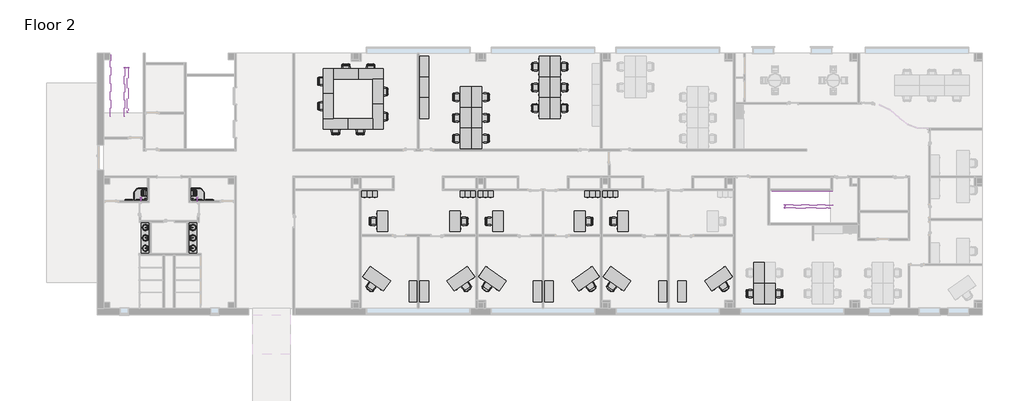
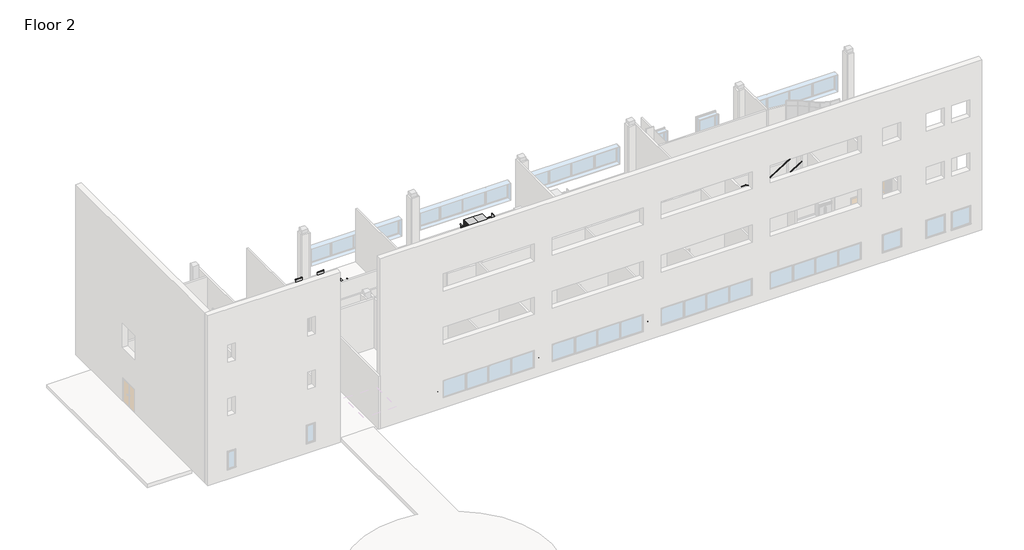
# One storey, part 6 of 7: 93 furniture elements, 16 flow terminals, 4 railings.
"""IFC4 building model written with IfcOpenShell, lengths in millimetres."""

from ifc_helpers import new_model, si_unit, origin, place, context, project, spatial, transform, mapped, element, save
from components import grab_rail_horizontal_grab_bar_horizontal_3488bc9b, grab_rail_horizontal_grab_bar_horizontal_f73a8c0c, shower_head_shower_head_b2a460ee, shower_head_shower_head_3f4786c7, shower_seat_e35f25db, shower_seat_bb0cd458, shower_tray_2_floor_shower_tray_997da0d4, shower_tray_2_floor_shower_tray_7a1f724c, sink_vanity_round_basin_6ecf7a68, furniture_552c1472, furniture_48aa8ab9, chair_executive_chair_executive_8d69e98c, chair_executive_chair_executive_a5be4872, chair_task_arms_chair_task_arms_fa5a08ef, chair_task_arms_chair_task_arms_3c69ee15, furniture_0f0bb7e9, furniture_a9e97cbc, furniture_f1eb905c, furniture_e30ff25b, furniture_33f25304, furniture_65204735, plumbing_fixtures_counter_top_w_sinks_2400x600x850mm_820859b4, furniture_a5b052b6, stair_railing_1_d4a7e100, stair_railing_1_835fd4d1, stair_railing_1_a30edcdb, stair_railing_1_ea28da98

model = new_model("IFC4")

# Units and contexts
model_context = context("Model", 3, world=origin())
ifc_project = project(units=[si_unit("LENGTHUNIT", "METRE", prefix="MILLI")], contexts=[model_context])

# Site, building, storey
site = spatial("IfcSite", under=ifc_project)
building = spatial("IfcBuilding", under=site)
storey = spatial("IfcBuildingStorey", under=building, Name="Floor 2", Elevation=5486.4)

# Flow terminals
placement = place(None, origin())
grab_rail_horizontal_grab_bar_horizontal_shape = grab_rail_horizontal_grab_bar_horizontal_3488bc9b(model_context)
element("IfcFlowTerminal", 1, ObjectType="Grab Rail - Horizontal : Grab Bar Horizontal", at=placement, inside=storey, context=model_context, shape_type="MappedRepresentation", body=[
    mapped(grab_rail_horizontal_grab_bar_horizontal_shape, transform((3129.9735359, 46520.961889, 5486.4), x_axis=(-1.0, 0.0, 0.0), y_axis=(0.0, -1.0, 0.0), z_axis=(0.0, 0.0, 1.0))),
])
element("IfcFlowTerminal", 2, ObjectType="Grab Rail - Horizontal : Grab Bar Horizontal", at=placement, inside=storey, context=model_context, shape_type="MappedRepresentation", body=[
    mapped(grab_rail_horizontal_grab_bar_horizontal_shape, transform((3939.9735359, 46520.961889, 5486.4), x_axis=(-1.0, 0.0, 0.0), y_axis=(0.0, -1.0, 0.0), z_axis=(0.0, 0.0, 1.0))),
])
grab_rail_horizontal_grab_bar_horizontal_2_shape = grab_rail_horizontal_grab_bar_horizontal_f73a8c0c(model_context)
element("IfcFlowTerminal", 3, ObjectType="Grab Rail - Horizontal : Grab Bar Horizontal", at=placement, inside=storey, context=model_context, shape_type="MappedRepresentation", body=[
    mapped(grab_rail_horizontal_grab_bar_horizontal_2_shape, transform((543.5648689, 46520.961889, 5486.4), x_axis=(1.0, 0.0, 0.0), y_axis=(0.0, 1.0, 0.0), z_axis=(0.0, 0.0, 1.0))),
])
element("IfcFlowTerminal", 4, ObjectType="Grab Rail - Horizontal : Grab Bar Horizontal", at=placement, inside=storey, context=model_context, shape_type="MappedRepresentation", body=[
    mapped(grab_rail_horizontal_grab_bar_horizontal_2_shape, transform((-266.4351311, 46520.961889, 5486.4), x_axis=(1.0, 0.0, 0.0), y_axis=(0.0, 1.0, 0.0), z_axis=(0.0, 0.0, 1.0))),
])
shower_head_shower_head_shape = shower_head_shower_head_b2a460ee(model_context)
element("IfcFlowTerminal", 5, ObjectType="Shower Head : Shower Head", at=placement, inside=storey, context=model_context, shape_type="MappedRepresentation", body=[
    mapped(shower_head_shower_head_shape, transform((-227.2307976, 46520.961889, 5486.4), x_axis=(1.0, 0.0, 0.0), y_axis=(0.0, 1.0, 0.0), z_axis=(0.0, 0.0, 1.0))),
])
shower_head_shower_head_2_shape = shower_head_shower_head_3f4786c7(model_context)
element("IfcFlowTerminal", 6, ObjectType="Shower Head : Shower Head", at=placement, inside=storey, context=model_context, shape_type="MappedRepresentation", body=[
    mapped(shower_head_shower_head_2_shape, transform((3900.7692024, 46520.961889, 5486.4), x_axis=(-1.0, 0.0, 0.0), y_axis=(0.0, -1.0, 0.0), z_axis=(0.0, 0.0, 1.0))),
])
shower_seat_shape = shower_seat_e35f25db(model_context)
element("IfcFlowTerminal", 7, ObjectType="Shower - Disabled  Seat : Shower Seat", at=placement, inside=storey, context=model_context, shape_type="MappedRepresentation", body=[
    mapped(shower_seat_shape, transform((242.9192024, 47086.6956616, 5486.4), x_axis=(0.0, 1.0, 0.0), y_axis=(-1.0, 0.0, 0.0), z_axis=(0.0, 0.0, 1.0))),
])
shower_seat_2_shape = shower_seat_bb0cd458(model_context)
element("IfcFlowTerminal", 8, ObjectType="Shower - Disabled  Seat : Shower Seat", at=placement, inside=storey, context=model_context, shape_type="MappedRepresentation", body=[
    mapped(shower_seat_2_shape, transform((3430.6192024, 47086.6956616, 5486.4), x_axis=(0.0, 1.0, 0.0), y_axis=(-1.0, 0.0, 0.0), z_axis=(0.0, 0.0, 1.0))),
])
shower_tray_2_floor_shower_tray_shape = shower_tray_2_floor_shower_tray_997da0d4(model_context)
element("IfcFlowTerminal", 9, ObjectType="Shower Tray (2) : Floor Shower Tray", at=placement, inside=storey, context=model_context, shape_type="MappedRepresentation", body=[
    mapped(shower_tray_2_floor_shower_tray_shape, transform((3430.6192024, 46520.961889, 5486.4), x_axis=(0.0, -1.0, 0.0), y_axis=(1.0, 0.0, 0.0), z_axis=(0.0, 0.0, 1.0))),
])
shower_tray_2_floor_shower_tray_2_shape = shower_tray_2_floor_shower_tray_7a1f724c(model_context)
element("IfcFlowTerminal", 10, ObjectType="Shower Tray (2) : Floor Shower Tray", at=placement, inside=storey, context=model_context, shape_type="MappedRepresentation", body=[
    mapped(shower_tray_2_floor_shower_tray_2_shape, transform((242.9192024, 46520.961889, 5486.4), x_axis=(0.0, -1.0, 0.0), y_axis=(1.0, 0.0, 0.0), z_axis=(0.0, 0.0, 1.0))),
])
sink_vanity_round_basin_shape = sink_vanity_round_basin_6ecf7a68(model_context)
element("IfcFlowTerminal", 11, ObjectType="Sink - Vanity - Round : Basin", at=placement, inside=storey, context=model_context, shape_type="MappedRepresentation", body=[
    mapped(sink_vanity_round_basin_shape, transform((10.1514839, 43898.1636296, 5562.2), x_axis=(0.0, -1.0, 0.0), y_axis=(1.0, 0.0, 0.0), z_axis=(0.0, 0.0, 1.0))),
])
element("IfcFlowTerminal", 12, ObjectType="Sink - Vanity - Round : Basin", at=placement, inside=storey, context=model_context, shape_type="MappedRepresentation", body=[
    mapped(sink_vanity_round_basin_shape, transform((10.1514839, 44660.1636296, 5562.6), x_axis=(0.0, -1.0, 0.0), y_axis=(1.0, 0.0, 0.0), z_axis=(0.0, 0.0, 1.0))),
])
element("IfcFlowTerminal", 13, ObjectType="Sink - Vanity - Round : Basin", at=placement, inside=storey, context=model_context, shape_type="MappedRepresentation", body=[
    mapped(sink_vanity_round_basin_shape, transform((10.1514839, 43136.1636296, 5561.8), x_axis=(0.0, -1.0, 0.0), y_axis=(1.0, 0.0, 0.0), z_axis=(0.0, 0.0, 1.0))),
])
element("IfcFlowTerminal", 14, ObjectType="Sink - Vanity - Round : Basin", at=placement, inside=storey, context=model_context, shape_type="MappedRepresentation", body=[
    mapped(sink_vanity_round_basin_shape, transform((3663.3869209, 43704.8601484, 5562.2), x_axis=(0.0, 1.0, 0.0), y_axis=(-1.0, 0.0, 0.0), z_axis=(0.0, 0.0, 1.0))),
])
element("IfcFlowTerminal", 15, ObjectType="Sink - Vanity - Round : Basin", at=placement, inside=storey, context=model_context, shape_type="MappedRepresentation", body=[
    mapped(sink_vanity_round_basin_shape, transform((3663.3869209, 42942.8601484, 5562.6), x_axis=(0.0, 1.0, 0.0), y_axis=(-1.0, 0.0, 0.0), z_axis=(0.0, 0.0, 1.0))),
])
element("IfcFlowTerminal", 16, ObjectType="Sink - Vanity - Round : Basin", at=placement, inside=storey, context=model_context, shape_type="MappedRepresentation", body=[
    mapped(sink_vanity_round_basin_shape, transform((3663.3869209, 44466.8601484, 5561.8), x_axis=(0.0, 1.0, 0.0), y_axis=(-1.0, 0.0, 0.0), z_axis=(0.0, 0.0, 1.0))),
])

# Furniture
furniture_shape = furniture_552c1472(model_context)
element("IfcFurniture", 17, ObjectType="Cabinet-File 3 Drawer : 15\" x 18\"", at=placement, inside=storey, context=model_context, shape_type="MappedRepresentation", body=[
    mapped(furniture_shape, transform((24786.5656494, 47175.7961891, 5486.4), x_axis=(1.0, 0.0, 0.0), y_axis=(0.0, 1.0, 0.0), z_axis=(0.0, 0.0, 1.0))),
])
element("IfcFurniture", 18, ObjectType="Cabinet-File 3 Drawer : 15\" x 18\"", at=placement, inside=storey, context=model_context, shape_type="MappedRepresentation", body=[
    mapped(furniture_shape, transform((25167.5656494, 47175.7961891, 5486.4), x_axis=(1.0, 0.0, 0.0), y_axis=(0.0, 1.0, 0.0), z_axis=(0.0, 0.0, 1.0))),
])
element("IfcFurniture", 19, ObjectType="Cabinet-File 3 Drawer : 15\" x 18\"", at=placement, inside=storey, context=model_context, shape_type="MappedRepresentation", body=[
    mapped(furniture_shape, transform((25548.5656494, 47175.7961891, 5486.4), x_axis=(1.0, 0.0, 0.0), y_axis=(0.0, 1.0, 0.0), z_axis=(0.0, 0.0, 1.0))),
])
element("IfcFurniture", 20, ObjectType="Cabinet-File 3 Drawer : 15\" x 18\"", at=placement, inside=storey, context=model_context, shape_type="MappedRepresentation", body=[
    mapped(furniture_shape, transform((33930.5656494, 47175.7961891, 5486.4), x_axis=(1.0, 0.0, 0.0), y_axis=(0.0, 1.0, 0.0), z_axis=(0.0, 0.0, 1.0))),
])
element("IfcFurniture", 21, ObjectType="Cabinet-File 3 Drawer : 15\" x 18\"", at=placement, inside=storey, context=model_context, shape_type="MappedRepresentation", body=[
    mapped(furniture_shape, transform((34311.5656494, 47175.7961891, 5486.4), x_axis=(1.0, 0.0, 0.0), y_axis=(0.0, 1.0, 0.0), z_axis=(0.0, 0.0, 1.0))),
])
element("IfcFurniture", 22, ObjectType="Cabinet-File 3 Drawer : 15\" x 18\"", at=placement, inside=storey, context=model_context, shape_type="MappedRepresentation", body=[
    mapped(furniture_shape, transform((34692.5656494, 47175.7961891, 5486.4), x_axis=(1.0, 0.0, 0.0), y_axis=(0.0, 1.0, 0.0), z_axis=(0.0, 0.0, 1.0))),
])
element("IfcFurniture", 23, ObjectType="Cabinet-File 3 Drawer : 15\" x 18\"", at=placement, inside=storey, context=model_context, shape_type="MappedRepresentation", body=[
    mapped(furniture_shape, transform((16290.2656494, 47175.7961891, 5486.4), x_axis=(1.0, 0.0, 0.0), y_axis=(0.0, 1.0, 0.0), z_axis=(0.0, 0.0, 1.0))),
])
element("IfcFurniture", 24, ObjectType="Cabinet-File 3 Drawer : 15\" x 18\"", at=placement, inside=storey, context=model_context, shape_type="MappedRepresentation", body=[
    mapped(furniture_shape, transform((16671.2656494, 47175.7961891, 5486.4), x_axis=(1.0, 0.0, 0.0), y_axis=(0.0, 1.0, 0.0), z_axis=(0.0, 0.0, 1.0))),
])
element("IfcFurniture", 25, ObjectType="Cabinet-File 3 Drawer : 15\" x 18\"", at=placement, inside=storey, context=model_context, shape_type="MappedRepresentation", body=[
    mapped(furniture_shape, transform((17052.2656494, 47175.7961891, 5486.4), x_axis=(1.0, 0.0, 0.0), y_axis=(0.0, 1.0, 0.0), z_axis=(0.0, 0.0, 1.0))),
])
furniture_2_shape = furniture_48aa8ab9(model_context)
element("IfcFurniture", 26, ObjectType="Cabinet-File 3 Drawer : 15\" x 18\"", at=placement, inside=storey, context=model_context, shape_type="MappedRepresentation", body=[
    mapped(furniture_2_shape, transform((33154.0727553, 47175.7961891, 5486.4), x_axis=(-1.0, 0.0, 0.0), y_axis=(0.0, -1.0, 0.0), z_axis=(0.0, 0.0, 1.0))),
])
element("IfcFurniture", 27, ObjectType="Cabinet-File 3 Drawer : 15\" x 18\"", at=placement, inside=storey, context=model_context, shape_type="MappedRepresentation", body=[
    mapped(furniture_2_shape, transform((32773.0727553, 47175.7961891, 5486.4), x_axis=(-1.0, 0.0, 0.0), y_axis=(0.0, -1.0, 0.0), z_axis=(0.0, 0.0, 1.0))),
])
element("IfcFurniture", 28, ObjectType="Cabinet-File 3 Drawer : 15\" x 18\"", at=placement, inside=storey, context=model_context, shape_type="MappedRepresentation", body=[
    mapped(furniture_2_shape, transform((32392.0727553, 47175.7961891, 5486.4), x_axis=(-1.0, 0.0, 0.0), y_axis=(0.0, -1.0, 0.0), z_axis=(0.0, 0.0, 1.0))),
])
element("IfcFurniture", 29, ObjectType="Cabinet-File 3 Drawer : 15\" x 18\"", at=placement, inside=storey, context=model_context, shape_type="MappedRepresentation", body=[
    mapped(furniture_2_shape, transform((24010.0727553, 47175.7961891, 5486.4), x_axis=(-1.0, 0.0, 0.0), y_axis=(0.0, -1.0, 0.0), z_axis=(0.0, 0.0, 1.0))),
])
element("IfcFurniture", 30, ObjectType="Cabinet-File 3 Drawer : 15\" x 18\"", at=placement, inside=storey, context=model_context, shape_type="MappedRepresentation", body=[
    mapped(furniture_2_shape, transform((23629.0727553, 47175.7961891, 5486.4), x_axis=(-1.0, 0.0, 0.0), y_axis=(0.0, -1.0, 0.0), z_axis=(0.0, 0.0, 1.0))),
])
element("IfcFurniture", 31, ObjectType="Cabinet-File 3 Drawer : 15\" x 18\"", at=placement, inside=storey, context=model_context, shape_type="MappedRepresentation", body=[
    mapped(furniture_2_shape, transform((23248.0727553, 47175.7961891, 5486.4), x_axis=(-1.0, 0.0, 0.0), y_axis=(0.0, -1.0, 0.0), z_axis=(0.0, 0.0, 1.0))),
])
chair_executive_chair_executive_shape = chair_executive_chair_executive_8d69e98c(model_context)
element("IfcFurniture", 32, ObjectType="Chair-Executive : Chair-Executive", at=placement, inside=storey, context=model_context, shape_type="MappedRepresentation", body=[
    mapped(chair_executive_chair_executive_shape, transform((25045.995015, 40313.6122918, 5486.4), x_axis=(0.819152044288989, -0.57357643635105, 0.0), y_axis=(0.57357643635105, 0.819152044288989, 0.0), z_axis=(0.0, 0.0, 1.0))),
])
element("IfcFurniture", 33, ObjectType="Chair-Executive : Chair-Executive", at=placement, inside=storey, context=model_context, shape_type="MappedRepresentation", body=[
    mapped(chair_executive_chair_executive_shape, transform((34189.995015, 40313.6122918, 5486.4), x_axis=(0.819152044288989, -0.57357643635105, 0.0), y_axis=(0.57357643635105, 0.819152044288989, 0.0), z_axis=(0.0, 0.0, 1.0))),
])
element("IfcFurniture", 34, ObjectType="Chair-Executive : Chair-Executive", at=placement, inside=storey, context=model_context, shape_type="MappedRepresentation", body=[
    mapped(chair_executive_chair_executive_shape, transform((16549.695015, 40313.6122918, 5486.4), x_axis=(0.819152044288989, -0.57357643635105, 0.0), y_axis=(0.57357643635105, 0.819152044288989, 0.0), z_axis=(0.0, 0.0, 1.0))),
])
chair_executive_chair_executive_2_shape = chair_executive_chair_executive_a5be4872(model_context)
element("IfcFurniture", 35, ObjectType="Chair-Executive : Chair-Executive", at=placement, inside=storey, context=model_context, shape_type="MappedRepresentation", body=[
    mapped(chair_executive_chair_executive_2_shape, transform((32894.6433897, 40313.6122918, 5486.4), x_axis=(-0.819152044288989, -0.57357643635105, 0.0), y_axis=(0.57357643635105, -0.819152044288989, 0.0), z_axis=(0.0, 0.0, 1.0))),
])
element("IfcFurniture", 36, ObjectType="Chair-Executive : Chair-Executive", at=placement, inside=storey, context=model_context, shape_type="MappedRepresentation", body=[
    mapped(chair_executive_chair_executive_2_shape, transform((42651.4183897, 40313.6122918, 5486.4), x_axis=(-0.819152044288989, -0.57357643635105, 0.0), y_axis=(0.57357643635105, -0.819152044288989, 0.0), z_axis=(0.0, 0.0, 1.0))),
])
element("IfcFurniture", 37, ObjectType="Chair-Executive : Chair-Executive", at=placement, inside=storey, context=model_context, shape_type="MappedRepresentation", body=[
    mapped(chair_executive_chair_executive_2_shape, transform((23750.6433897, 40313.6122918, 5486.4), x_axis=(-0.819152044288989, -0.57357643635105, 0.0), y_axis=(0.57357643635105, -0.819152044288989, 0.0), z_axis=(0.0, 0.0, 1.0))),
])
chair_task_arms_chair_task_arms_shape = chair_task_arms_chair_task_arms_fa5a08ef(model_context)
element("IfcFurniture", 38, ObjectType="Chair-Task Arms : Chair-Task Arms", at=placement, inside=storey, context=model_context, shape_type="MappedRepresentation", body=[
    mapped(chair_task_arms_chair_task_arms_shape, transform((25281.0733007, 45161.7027087, 5486.4), x_axis=(0.0, -1.0, 0.0), y_axis=(1.0, 0.0, 0.0), z_axis=(0.0, 0.0, 1.0))),
])
element("IfcFurniture", 39, ObjectType="Chair-Task Arms : Chair-Task Arms", at=placement, inside=storey, context=model_context, shape_type="MappedRepresentation", body=[
    mapped(chair_task_arms_chair_task_arms_shape, transform((34425.0733007, 45161.7027087, 5486.4), x_axis=(0.0, -1.0, 0.0), y_axis=(1.0, 0.0, 0.0), z_axis=(0.0, 0.0, 1.0))),
])
element("IfcFurniture", 40, ObjectType="Chair-Task Arms : Chair-Task Arms", at=placement, inside=storey, context=model_context, shape_type="MappedRepresentation", body=[
    mapped(chair_task_arms_chair_task_arms_shape, transform((16784.7733007, 45161.7027087, 5486.4), x_axis=(0.0, -1.0, 0.0), y_axis=(1.0, 0.0, 0.0), z_axis=(0.0, 0.0, 1.0))),
])
element("IfcFurniture", 41, ObjectType="Chair-Task Arms : Chair-Task Arms", at=placement, inside=storey, context=model_context, shape_type="MappedRepresentation", body=[
    mapped(chair_task_arms_chair_task_arms_shape, transform((13905.8188499, 51632.7534874, 5486.4), x_axis=(1.0, 0.0, 0.0), y_axis=(0.0, 1.0, 0.0), z_axis=(0.0, 0.0, 1.0))),
])
element("IfcFurniture", 42, ObjectType="Chair-Task Arms : Chair-Task Arms", at=placement, inside=storey, context=model_context, shape_type="MappedRepresentation", body=[
    mapped(chair_task_arms_chair_task_arms_shape, transform((15734.6188499, 51632.7534874, 5486.4), x_axis=(1.0, 0.0, 0.0), y_axis=(0.0, 1.0, 0.0), z_axis=(0.0, 0.0, 1.0))),
])
element("IfcFurniture", 43, ObjectType="Chair-Task Arms : Chair-Task Arms", at=placement, inside=storey, context=model_context, shape_type="MappedRepresentation", body=[
    mapped(chair_task_arms_chair_task_arms_shape, transform((17641.815104, 52572.8924709, 5486.4), x_axis=(0.0, 1.0, 0.0), y_axis=(-1.0, 0.0, 0.0), z_axis=(0.0, 0.0, 1.0))),
])
element("IfcFurniture", 44, ObjectType="Chair-Task Arms : Chair-Task Arms", at=placement, inside=storey, context=model_context, shape_type="MappedRepresentation", body=[
    mapped(chair_task_arms_chair_task_arms_shape, transform((17641.815104, 54401.6924709, 5486.4), x_axis=(0.0, 1.0, 0.0), y_axis=(-1.0, 0.0, 0.0), z_axis=(0.0, 0.0, 1.0))),
])
element("IfcFurniture", 45, ObjectType="Chair-Task Arms : Chair-Task Arms", at=placement, inside=storey, context=model_context, shape_type="MappedRepresentation", body=[
    mapped(chair_task_arms_chair_task_arms_shape, transform((16765.9004892, 56317.2577906, 5486.4), x_axis=(-1.0, 0.0, 0.0), y_axis=(0.0, -1.0, 0.0), z_axis=(0.0, 0.0, 1.0))),
])
element("IfcFurniture", 46, ObjectType="Chair-Task Arms : Chair-Task Arms", at=placement, inside=storey, context=model_context, shape_type="MappedRepresentation", body=[
    mapped(chair_task_arms_chair_task_arms_shape, transform((14949.8004892, 56317.2577906, 5486.4), x_axis=(-1.0, 0.0, 0.0), y_axis=(0.0, -1.0, 0.0), z_axis=(0.0, 0.0, 1.0))),
])
element("IfcFurniture", 47, ObjectType="Chair-Task Arms : Chair-Task Arms", at=placement, inside=storey, context=model_context, shape_type="MappedRepresentation", body=[
    mapped(chair_task_arms_chair_task_arms_shape, transform((13006.5233007, 55445.6741102, 5486.4), x_axis=(0.0, -1.0, 0.0), y_axis=(1.0, 0.0, 0.0), z_axis=(0.0, 0.0, 1.0))),
])
element("IfcFurniture", 48, ObjectType="Chair-Task Arms : Chair-Task Arms", at=placement, inside=storey, context=model_context, shape_type="MappedRepresentation", body=[
    mapped(chair_task_arms_chair_task_arms_shape, transform((13006.5233007, 53616.8741102, 5486.4), x_axis=(0.0, -1.0, 0.0), y_axis=(1.0, 0.0, 0.0), z_axis=(0.0, 0.0, 1.0))),
])
element("IfcFurniture", 49, ObjectType="Chair-Task Arms : Chair-Task Arms", at=placement, inside=storey, context=model_context, shape_type="MappedRepresentation", body=[
    mapped(chair_task_arms_chair_task_arms_shape, transform((25071.315104, 50950.3210693, 5486.4), x_axis=(0.0, 1.0, 0.0), y_axis=(-1.0, 0.0, 0.0), z_axis=(0.0, 0.0, 1.0))),
])
element("IfcFurniture", 50, ObjectType="Chair-Task Arms : Chair-Task Arms", at=placement, inside=storey, context=model_context, shape_type="MappedRepresentation", body=[
    mapped(chair_task_arms_chair_task_arms_shape, transform((25071.315104, 52474.3210693, 5486.4), x_axis=(0.0, 1.0, 0.0), y_axis=(-1.0, 0.0, 0.0), z_axis=(0.0, 0.0, 1.0))),
])
element("IfcFurniture", 51, ObjectType="Chair-Task Arms : Chair-Task Arms", at=placement, inside=storey, context=model_context, shape_type="MappedRepresentation", body=[
    mapped(chair_task_arms_chair_task_arms_shape, transform((25071.315104, 53998.3210693, 5486.4), x_axis=(0.0, 1.0, 0.0), y_axis=(-1.0, 0.0, 0.0), z_axis=(0.0, 0.0, 1.0))),
])
element("IfcFurniture", 52, ObjectType="Chair-Task Arms : Chair-Task Arms", at=placement, inside=storey, context=model_context, shape_type="MappedRepresentation", body=[
    mapped(chair_task_arms_chair_task_arms_shape, transform((30844.5832347, 53185.5210693, 5486.4), x_axis=(0.0, 1.0, 0.0), y_axis=(-1.0, 0.0, 0.0), z_axis=(0.0, 0.0, 1.0))),
])
element("IfcFurniture", 53, ObjectType="Chair-Task Arms : Chair-Task Arms", at=placement, inside=storey, context=model_context, shape_type="MappedRepresentation", body=[
    mapped(chair_task_arms_chair_task_arms_shape, transform((30844.5832347, 54709.5210693, 5486.4), x_axis=(0.0, 1.0, 0.0), y_axis=(-1.0, 0.0, 0.0), z_axis=(0.0, 0.0, 1.0))),
])
element("IfcFurniture", 54, ObjectType="Chair-Task Arms : Chair-Task Arms", at=placement, inside=storey, context=model_context, shape_type="MappedRepresentation", body=[
    mapped(chair_task_arms_chair_task_arms_shape, transform((30844.5832347, 56233.5210693, 5486.4), x_axis=(0.0, 1.0, 0.0), y_axis=(-1.0, 0.0, 0.0), z_axis=(0.0, 0.0, 1.0))),
])
element("IfcFurniture", 55, ObjectType="Chair-Task Arms : Chair-Task Arms", at=placement, inside=storey, context=model_context, shape_type="MappedRepresentation", body=[
    mapped(chair_task_arms_chair_task_arms_shape, transform((46597.1240822, 39566.6046547, 5486.4), x_axis=(0.0, 1.0, 0.0), y_axis=(-1.0, 0.0, 0.0), z_axis=(0.0, 0.0, 1.0))),
])
chair_task_arms_chair_task_arms_2_shape = chair_task_arms_chair_task_arms_3c69ee15(model_context)
element("IfcFurniture", 56, ObjectType="Chair-Task Arms : Chair-Task Arms", at=placement, inside=storey, context=model_context, shape_type="MappedRepresentation", body=[
    mapped(chair_task_arms_chair_task_arms_2_shape, transform((32659.565104, 45161.7027087, 5486.4), x_axis=(0.0, -1.0, 0.0), y_axis=(1.0, 0.0, 0.0), z_axis=(0.0, 0.0, 1.0))),
])
element("IfcFurniture", 57, ObjectType="Chair-Task Arms : Chair-Task Arms", at=placement, inside=storey, context=model_context, shape_type="MappedRepresentation", body=[
    mapped(chair_task_arms_chair_task_arms_2_shape, transform((23515.565104, 45161.7027087, 5486.4), x_axis=(0.0, -1.0, 0.0), y_axis=(1.0, 0.0, 0.0), z_axis=(0.0, 0.0, 1.0))),
])
element("IfcFurniture", 58, ObjectType="Chair-Task Arms : Chair-Task Arms", at=placement, inside=storey, context=model_context, shape_type="MappedRepresentation", body=[
    mapped(chair_task_arms_chair_task_arms_2_shape, transform((22899.8233007, 50950.3210693, 5486.4), x_axis=(0.0, 1.0, 0.0), y_axis=(-1.0, 0.0, 0.0), z_axis=(0.0, 0.0, 1.0))),
])
element("IfcFurniture", 59, ObjectType="Chair-Task Arms : Chair-Task Arms", at=placement, inside=storey, context=model_context, shape_type="MappedRepresentation", body=[
    mapped(chair_task_arms_chair_task_arms_2_shape, transform((22899.8233007, 52474.3210693, 5486.4), x_axis=(0.0, 1.0, 0.0), y_axis=(-1.0, 0.0, 0.0), z_axis=(0.0, 0.0, 1.0))),
])
element("IfcFurniture", 60, ObjectType="Chair-Task Arms : Chair-Task Arms", at=placement, inside=storey, context=model_context, shape_type="MappedRepresentation", body=[
    mapped(chair_task_arms_chair_task_arms_2_shape, transform((22899.8233007, 53998.3210693, 5486.4), x_axis=(0.0, 1.0, 0.0), y_axis=(-1.0, 0.0, 0.0), z_axis=(0.0, 0.0, 1.0))),
])
element("IfcFurniture", 61, ObjectType="Chair-Task Arms : Chair-Task Arms", at=placement, inside=storey, context=model_context, shape_type="MappedRepresentation", body=[
    mapped(chair_task_arms_chair_task_arms_2_shape, transform((28673.0914314, 53185.5210693, 5486.4), x_axis=(0.0, 1.0, 0.0), y_axis=(-1.0, 0.0, 0.0), z_axis=(0.0, 0.0, 1.0))),
])
element("IfcFurniture", 62, ObjectType="Chair-Task Arms : Chair-Task Arms", at=placement, inside=storey, context=model_context, shape_type="MappedRepresentation", body=[
    mapped(chair_task_arms_chair_task_arms_2_shape, transform((28673.0914314, 54709.5210693, 5486.4), x_axis=(0.0, 1.0, 0.0), y_axis=(-1.0, 0.0, 0.0), z_axis=(0.0, 0.0, 1.0))),
])
element("IfcFurniture", 63, ObjectType="Chair-Task Arms : Chair-Task Arms", at=placement, inside=storey, context=model_context, shape_type="MappedRepresentation", body=[
    mapped(chair_task_arms_chair_task_arms_2_shape, transform((28673.0914314, 56233.5210693, 5486.4), x_axis=(0.0, 1.0, 0.0), y_axis=(-1.0, 0.0, 0.0), z_axis=(0.0, 0.0, 1.0))),
])
element("IfcFurniture", 64, ObjectType="Chair-Task Arms : Chair-Task Arms", at=placement, inside=storey, context=model_context, shape_type="MappedRepresentation", body=[
    mapped(chair_task_arms_chair_task_arms_2_shape, transform((44425.6322789, 39566.6046547, 5486.4), x_axis=(0.0, 1.0, 0.0), y_axis=(-1.0, 0.0, 0.0), z_axis=(0.0, 0.0, 1.0))),
])
furniture_3_shape = furniture_0f0bb7e9(model_context)
element("IfcFurniture", 65, ObjectType="Credenza : 60\" x 24\"", at=placement, inside=storey, context=model_context, shape_type="MappedRepresentation", body=[
    mapped(furniture_3_shape, transform((29686.0995302, 39804.9676267, 5486.4), x_axis=(0.0, 1.0, 0.0), y_axis=(-1.0, 0.0, 0.0), z_axis=(0.0, 0.0, 1.0))),
])
element("IfcFurniture", 66, ObjectType="Credenza : 60\" x 24\"", at=placement, inside=storey, context=model_context, shape_type="MappedRepresentation", body=[
    mapped(furniture_3_shape, transform((39442.8745302, 39804.9676267, 5486.4), x_axis=(0.0, 1.0, 0.0), y_axis=(-1.0, 0.0, 0.0), z_axis=(0.0, 0.0, 1.0))),
])
element("IfcFurniture", 67, ObjectType="Credenza : 60\" x 24\"", at=placement, inside=storey, context=model_context, shape_type="MappedRepresentation", body=[
    mapped(furniture_3_shape, transform((20542.0995302, 39804.9676267, 5486.4), x_axis=(0.0, 1.0, 0.0), y_axis=(-1.0, 0.0, 0.0), z_axis=(0.0, 0.0, 1.0))),
])
furniture_4_shape = furniture_a9e97cbc(model_context)
element("IfcFurniture", 68, ObjectType="Credenza : 60\" x 24\"", at=placement, inside=storey, context=model_context, shape_type="MappedRepresentation", body=[
    mapped(furniture_4_shape, transform((28889.5388745, 39804.9676267, 5486.4), x_axis=(0.0, 1.0, 0.0), y_axis=(-1.0, 0.0, 0.0), z_axis=(0.0, 0.0, 1.0))),
])
element("IfcFurniture", 69, ObjectType="Credenza : 60\" x 24\"", at=placement, inside=storey, context=model_context, shape_type="MappedRepresentation", body=[
    mapped(furniture_4_shape, transform((38074.8138745, 39804.9676267, 5486.4), x_axis=(0.0, 1.0, 0.0), y_axis=(-1.0, 0.0, 0.0), z_axis=(0.0, 0.0, 1.0))),
])
element("IfcFurniture", 70, ObjectType="Credenza : 60\" x 24\"", at=placement, inside=storey, context=model_context, shape_type="MappedRepresentation", body=[
    mapped(furniture_4_shape, transform((19783.6388745, 39804.9676267, 5486.4), x_axis=(0.0, 1.0, 0.0), y_axis=(-1.0, 0.0, 0.0), z_axis=(0.0, 0.0, 1.0))),
])
element("IfcFurniture", 71, ObjectType="Credenza : 60\" x 24\"", at=placement, inside=storey, context=model_context, shape_type="MappedRepresentation", body=[
    mapped(furniture_4_shape, transform((20542.0995302, 56434.0561513, 5486.4), x_axis=(0.0, -1.0, 0.0), y_axis=(1.0, 0.0, 0.0), z_axis=(0.0, 0.0, 1.0))),
])
element("IfcFurniture", 72, ObjectType="Credenza : 60\" x 24\"", at=placement, inside=storey, context=model_context, shape_type="MappedRepresentation", body=[
    mapped(furniture_4_shape, transform((20542.0995302, 54910.0561513, 5486.4), x_axis=(0.0, -1.0, 0.0), y_axis=(1.0, 0.0, 0.0), z_axis=(0.0, 0.0, 1.0))),
])
element("IfcFurniture", 73, ObjectType="Credenza : 60\" x 24\"", at=placement, inside=storey, context=model_context, shape_type="MappedRepresentation", body=[
    mapped(furniture_4_shape, transform((20542.0995302, 53386.0561513, 5486.4), x_axis=(0.0, -1.0, 0.0), y_axis=(1.0, 0.0, 0.0), z_axis=(0.0, 0.0, 1.0))),
])
furniture_5_shape = furniture_f1eb905c(model_context)
element("IfcFurniture", 74, ObjectType="Desk : 60\" x 30\"", at=placement, inside=storey, context=model_context, shape_type="MappedRepresentation", body=[
    mapped(furniture_5_shape, transform((25604.8192024, 45782.711889, 5486.4), x_axis=(0.0, -1.0, 0.0), y_axis=(1.0, 0.0, 0.0), z_axis=(0.0, 0.0, 1.0))),
])
element("IfcFurniture", 75, ObjectType="Desk : 60\" x 30\"", at=placement, inside=storey, context=model_context, shape_type="MappedRepresentation", body=[
    mapped(furniture_5_shape, transform((34748.8192024, 45782.711889, 5486.4), x_axis=(0.0, -1.0, 0.0), y_axis=(1.0, 0.0, 0.0), z_axis=(0.0, 0.0, 1.0))),
])
element("IfcFurniture", 76, ObjectType="Desk : 60\" x 30\"", at=placement, inside=storey, context=model_context, shape_type="MappedRepresentation", body=[
    mapped(furniture_5_shape, transform((17108.5192024, 45782.711889, 5486.4), x_axis=(0.0, -1.0, 0.0), y_axis=(1.0, 0.0, 0.0), z_axis=(0.0, 0.0, 1.0))),
])
element("IfcFurniture", 77, ObjectType="Desk : 60\" x 30\"", at=placement, inside=storey, context=model_context, shape_type="MappedRepresentation", body=[
    mapped(furniture_5_shape, transform((24747.5692024, 50329.311889, 5486.4), x_axis=(0.0, 1.0, 0.0), y_axis=(-1.0, 0.0, 0.0), z_axis=(0.0, 0.0, 1.0))),
])
element("IfcFurniture", 78, ObjectType="Desk : 60\" x 30\"", at=placement, inside=storey, context=model_context, shape_type="MappedRepresentation", body=[
    mapped(furniture_5_shape, transform((24747.5692024, 51853.311889, 5486.4), x_axis=(0.0, 1.0, 0.0), y_axis=(-1.0, 0.0, 0.0), z_axis=(0.0, 0.0, 1.0))),
])
element("IfcFurniture", 79, ObjectType="Desk : 60\" x 30\"", at=placement, inside=storey, context=model_context, shape_type="MappedRepresentation", body=[
    mapped(furniture_5_shape, transform((24747.5692024, 53377.311889, 5486.4), x_axis=(0.0, 1.0, 0.0), y_axis=(-1.0, 0.0, 0.0), z_axis=(0.0, 0.0, 1.0))),
])
element("IfcFurniture", 80, ObjectType="Desk : 60\" x 30\"", at=placement, inside=storey, context=model_context, shape_type="MappedRepresentation", body=[
    mapped(furniture_5_shape, transform((30520.8373331, 52564.511889, 5486.4), x_axis=(0.0, 1.0, 0.0), y_axis=(-1.0, 0.0, 0.0), z_axis=(0.0, 0.0, 1.0))),
])
element("IfcFurniture", 81, ObjectType="Desk : 60\" x 30\"", at=placement, inside=storey, context=model_context, shape_type="MappedRepresentation", body=[
    mapped(furniture_5_shape, transform((30520.8373331, 54088.511889, 5486.4), x_axis=(0.0, 1.0, 0.0), y_axis=(-1.0, 0.0, 0.0), z_axis=(0.0, 0.0, 1.0))),
])
element("IfcFurniture", 82, ObjectType="Desk : 60\" x 30\"", at=placement, inside=storey, context=model_context, shape_type="MappedRepresentation", body=[
    mapped(furniture_5_shape, transform((30520.8373331, 55612.511889, 5486.4), x_axis=(0.0, 1.0, 0.0), y_axis=(-1.0, 0.0, 0.0), z_axis=(0.0, 0.0, 1.0))),
])
element("IfcFurniture", 83, ObjectType="Desk : 60\" x 30\"", at=placement, inside=storey, context=model_context, shape_type="MappedRepresentation", body=[
    mapped(furniture_5_shape, transform((46273.3781805, 38945.5954744, 5486.4), x_axis=(0.0, 1.0, 0.0), y_axis=(-1.0, 0.0, 0.0), z_axis=(0.0, 0.0, 1.0))),
])
furniture_6_shape = furniture_e30ff25b(model_context)
element("IfcFurniture", 84, ObjectType="Desk : 60\" x 30\"", at=placement, inside=storey, context=model_context, shape_type="MappedRepresentation", body=[
    mapped(furniture_6_shape, transform((32335.8192024, 45782.711889, 5486.4), x_axis=(0.0, -1.0, 0.0), y_axis=(1.0, 0.0, 0.0), z_axis=(0.0, 0.0, 1.0))),
])
element("IfcFurniture", 85, ObjectType="Desk : 60\" x 30\"", at=placement, inside=storey, context=model_context, shape_type="MappedRepresentation", body=[
    mapped(furniture_6_shape, transform((23191.8192024, 45782.711889, 5486.4), x_axis=(0.0, -1.0, 0.0), y_axis=(1.0, 0.0, 0.0), z_axis=(0.0, 0.0, 1.0))),
])
element("IfcFurniture", 86, ObjectType="Desk : 60\" x 30\"", at=placement, inside=storey, context=model_context, shape_type="MappedRepresentation", body=[
    mapped(furniture_6_shape, transform((23223.5692024, 50329.311889, 5486.4), x_axis=(0.0, 1.0, 0.0), y_axis=(-1.0, 0.0, 0.0), z_axis=(0.0, 0.0, 1.0))),
])
element("IfcFurniture", 87, ObjectType="Desk : 60\" x 30\"", at=placement, inside=storey, context=model_context, shape_type="MappedRepresentation", body=[
    mapped(furniture_6_shape, transform((23223.5692024, 51853.311889, 5486.4), x_axis=(0.0, 1.0, 0.0), y_axis=(-1.0, 0.0, 0.0), z_axis=(0.0, 0.0, 1.0))),
])
element("IfcFurniture", 88, ObjectType="Desk : 60\" x 30\"", at=placement, inside=storey, context=model_context, shape_type="MappedRepresentation", body=[
    mapped(furniture_6_shape, transform((23223.5692024, 53377.311889, 5486.4), x_axis=(0.0, 1.0, 0.0), y_axis=(-1.0, 0.0, 0.0), z_axis=(0.0, 0.0, 1.0))),
])
element("IfcFurniture", 89, ObjectType="Desk : 60\" x 30\"", at=placement, inside=storey, context=model_context, shape_type="MappedRepresentation", body=[
    mapped(furniture_6_shape, transform((28996.8373331, 52564.511889, 5486.4), x_axis=(0.0, 1.0, 0.0), y_axis=(-1.0, 0.0, 0.0), z_axis=(0.0, 0.0, 1.0))),
])
element("IfcFurniture", 90, ObjectType="Desk : 60\" x 30\"", at=placement, inside=storey, context=model_context, shape_type="MappedRepresentation", body=[
    mapped(furniture_6_shape, transform((28996.8373331, 54088.511889, 5486.4), x_axis=(0.0, 1.0, 0.0), y_axis=(-1.0, 0.0, 0.0), z_axis=(0.0, 0.0, 1.0))),
])
element("IfcFurniture", 91, ObjectType="Desk : 60\" x 30\"", at=placement, inside=storey, context=model_context, shape_type="MappedRepresentation", body=[
    mapped(furniture_6_shape, transform((28996.8373331, 55612.511889, 5486.4), x_axis=(0.0, 1.0, 0.0), y_axis=(-1.0, 0.0, 0.0), z_axis=(0.0, 0.0, 1.0))),
])
element("IfcFurniture", 92, ObjectType="Desk : 60\" x 30\"", at=placement, inside=storey, context=model_context, shape_type="MappedRepresentation", body=[
    mapped(furniture_6_shape, transform((44749.3781805, 40469.5954744, 5486.4), x_axis=(0.0, 1.0, 0.0), y_axis=(-1.0, 0.0, 0.0), z_axis=(0.0, 0.0, 1.0))),
])
element("IfcFurniture", 93, ObjectType="Desk : 60\" x 30\"", at=placement, inside=storey, context=model_context, shape_type="MappedRepresentation", body=[
    mapped(furniture_6_shape, transform((44749.3781805, 38945.5954744, 5486.4), x_axis=(0.0, 1.0, 0.0), y_axis=(-1.0, 0.0, 0.0), z_axis=(0.0, 0.0, 1.0))),
])
furniture_7_shape = furniture_33f25304(model_context)
element("IfcFurniture", 94, ObjectType="Desk : 72\" x 36\"", at=placement, inside=storey, context=model_context, shape_type="MappedRepresentation", body=[
    mapped(furniture_7_shape, transform((24722.9870959, 40935.0056416, 5486.4), x_axis=(0.8191520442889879, -0.5735764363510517, 0.0), y_axis=(0.5735764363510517, 0.8191520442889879, 0.0), z_axis=(0.0, 0.0, 1.0))),
])
element("IfcFurniture", 95, ObjectType="Desk : 72\" x 36\"", at=placement, inside=storey, context=model_context, shape_type="MappedRepresentation", body=[
    mapped(furniture_7_shape, transform((33866.9870959, 40935.0056416, 5486.4), x_axis=(0.8191520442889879, -0.5735764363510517, 0.0), y_axis=(0.5735764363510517, 0.8191520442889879, 0.0), z_axis=(0.0, 0.0, 1.0))),
])
element("IfcFurniture", 96, ObjectType="Desk : 72\" x 36\"", at=placement, inside=storey, context=model_context, shape_type="MappedRepresentation", body=[
    mapped(furniture_7_shape, transform((16226.6870959, 40935.0056416, 5486.4), x_axis=(0.8191520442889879, -0.5735764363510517, 0.0), y_axis=(0.5735764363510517, 0.8191520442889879, 0.0), z_axis=(0.0, 0.0, 1.0))),
])
furniture_8_shape = furniture_65204735(model_context)
element("IfcFurniture", 97, ObjectType="Desk : 72\" x 36\"", at=placement, inside=storey, context=model_context, shape_type="MappedRepresentation", body=[
    mapped(furniture_8_shape, transform((33217.6513088, 40935.0056416, 5486.4), x_axis=(-0.8191520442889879, -0.5735764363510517, 0.0), y_axis=(0.5735764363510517, -0.8191520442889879, 0.0), z_axis=(0.0, 0.0, 1.0))),
])
element("IfcFurniture", 98, ObjectType="Desk : 72\" x 36\"", at=placement, inside=storey, context=model_context, shape_type="MappedRepresentation", body=[
    mapped(furniture_8_shape, transform((42974.4263088, 40935.0056416, 5486.4), x_axis=(-0.8191520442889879, -0.5735764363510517, 0.0), y_axis=(0.5735764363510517, -0.8191520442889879, 0.0), z_axis=(0.0, 0.0, 1.0))),
])
element("IfcFurniture", 99, ObjectType="Desk : 72\" x 36\"", at=placement, inside=storey, context=model_context, shape_type="MappedRepresentation", body=[
    mapped(furniture_8_shape, transform((24073.6513088, 40935.0056416, 5486.4), x_axis=(-0.8191520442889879, -0.5735764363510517, 0.0), y_axis=(0.5735764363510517, -0.8191520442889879, 0.0), z_axis=(0.0, 0.0, 1.0))),
])
plumbing_fixtures_counter_top_w_sinks_2400x600x850mm_shape = plumbing_fixtures_counter_top_w_sinks_2400x600x850mm_820859b4(model_context)
element("IfcFurniture", 100, ObjectType="Plumbing_Fixtures_Counter_Top_w-Sinks : 2400x600x850mm", at=placement, inside=storey, context=model_context, shape_type="MappedRepresentation", body=[
    mapped(plumbing_fixtures_counter_top_w_sinks_2400x600x850mm_shape, transform((465.1692024, 43774.6221928, 5486.4), x_axis=(0.0, 1.0, 0.0), y_axis=(-1.0, 0.0, 0.0), z_axis=(0.0, 0.0, 1.0))),
])
element("IfcFurniture", 101, ObjectType="Plumbing_Fixtures_Counter_Top_w-Sinks : 2400x600x850mm", at=placement, inside=storey, context=model_context, shape_type="MappedRepresentation", body=[
    mapped(plumbing_fixtures_counter_top_w_sinks_2400x600x850mm_shape, transform((3208.3692024, 43828.4015852, 5486.4), x_axis=(0.0, -1.0, 0.0), y_axis=(1.0, 0.0, 0.0), z_axis=(0.0, 0.0, 1.0))),
])
furniture_9_shape = furniture_a5b052b6(model_context)
element("IfcFurniture", 102, ObjectType="Table-Rectangular : 72\" x 30\"", at=placement, inside=storey, context=model_context, shape_type="MappedRepresentation", body=[
    mapped(furniture_9_shape, transform((14808.8096695, 55838.0832906, 5486.4), x_axis=(1.0, 0.0, 0.0), y_axis=(0.0, 1.0, 0.0), z_axis=(0.0, 0.0, 1.0))),
])
element("IfcFurniture", 103, ObjectType="Table-Rectangular : 72\" x 30\"", at=placement, inside=storey, context=model_context, shape_type="MappedRepresentation", body=[
    mapped(furniture_9_shape, transform((16624.9096695, 55838.0832906, 5486.4), x_axis=(1.0, 0.0, 0.0), y_axis=(0.0, 1.0, 0.0), z_axis=(0.0, 0.0, 1.0))),
])
element("IfcFurniture", 104, ObjectType="Table-Rectangular : 72\" x 30\"", at=placement, inside=storey, context=model_context, shape_type="MappedRepresentation", body=[
    mapped(furniture_9_shape, transform((13513.4096695, 55304.6832906, 5486.4), x_axis=(0.0, 1.0, 0.0), y_axis=(-1.0, 0.0, 0.0), z_axis=(0.0, 0.0, 1.0))),
])
element("IfcFurniture", 105, ObjectType="Table-Rectangular : 72\" x 30\"", at=placement, inside=storey, context=model_context, shape_type="MappedRepresentation", body=[
    mapped(furniture_9_shape, transform((13513.4096695, 53475.8832906, 5486.4), x_axis=(0.0, 1.0, 0.0), y_axis=(-1.0, 0.0, 0.0), z_axis=(0.0, 0.0, 1.0))),
])
element("IfcFurniture", 106, ObjectType="Table-Rectangular : 72\" x 30\"", at=placement, inside=storey, context=model_context, shape_type="MappedRepresentation", body=[
    mapped(furniture_9_shape, transform((17158.3096695, 54542.6832906, 5486.4), x_axis=(0.0, 1.0, 0.0), y_axis=(-1.0, 0.0, 0.0), z_axis=(0.0, 0.0, 1.0))),
])
element("IfcFurniture", 107, ObjectType="Table-Rectangular : 72\" x 30\"", at=placement, inside=storey, context=model_context, shape_type="MappedRepresentation", body=[
    mapped(furniture_9_shape, transform((17158.3096695, 52713.8832906, 5486.4), x_axis=(0.0, 1.0, 0.0), y_axis=(-1.0, 0.0, 0.0), z_axis=(0.0, 0.0, 1.0))),
])
element("IfcFurniture", 108, ObjectType="Table-Rectangular : 72\" x 30\"", at=placement, inside=storey, context=model_context, shape_type="MappedRepresentation", body=[
    mapped(furniture_9_shape, transform((14046.8096695, 52167.7832906, 5486.4), x_axis=(-1.0, 0.0, 0.0), y_axis=(0.0, -1.0, 0.0), z_axis=(0.0, 0.0, 1.0))),
])
element("IfcFurniture", 109, ObjectType="Table-Rectangular : 72\" x 30\"", at=placement, inside=storey, context=model_context, shape_type="MappedRepresentation", body=[
    mapped(furniture_9_shape, transform((15875.6096695, 52167.7832906, 5486.4), x_axis=(-1.0, 0.0, 0.0), y_axis=(0.0, -1.0, 0.0), z_axis=(0.0, 0.0, 1.0))),
])

# Railings
stair_railing_1_shape = stair_railing_1_d4a7e100(model_context)
element("IfcRailing", 110, ObjectType="Stair Railing 1", at=placement, inside=storey, context=model_context, shape_type="MappedRepresentation", body=[
    mapped(stair_railing_1_shape, transform((0.0, 0.0, 0.0), x_axis=(1.0, 0.0, 0.0), y_axis=(0.0, 1.0, 0.0), z_axis=(0.0, 0.0, 1.0))),
])
stair_railing_1_2_shape = stair_railing_1_835fd4d1(model_context)
element("IfcRailing", 111, ObjectType="Stair Railing 1", at=placement, inside=storey, context=model_context, shape_type="MappedRepresentation", body=[
    mapped(stair_railing_1_2_shape, transform((0.0, 0.0, 0.0), x_axis=(1.0, 0.0, 0.0), y_axis=(0.0, 1.0, 0.0), z_axis=(0.0, 0.0, 1.0))),
])
stair_railing_1_3_shape = stair_railing_1_a30edcdb(model_context)
element("IfcRailing", 112, ObjectType="Stair Railing 1", at=placement, inside=storey, context=model_context, shape_type="MappedRepresentation", body=[
    mapped(stair_railing_1_3_shape, transform((0.0, 0.0, 0.0), x_axis=(1.0, 0.0, 0.0), y_axis=(0.0, 1.0, 0.0), z_axis=(0.0, 0.0, 1.0))),
])
stair_railing_1_4_shape = stair_railing_1_ea28da98(model_context)
element("IfcRailing", 113, ObjectType="Stair Railing 1", at=placement, inside=storey, context=model_context, shape_type="MappedRepresentation", body=[
    mapped(stair_railing_1_4_shape, transform((0.0, 0.0, 0.0), x_axis=(1.0, 0.0, 0.0), y_axis=(0.0, 1.0, 0.0), z_axis=(0.0, 0.0, 1.0))),
])

save(model, "model.ifc")
